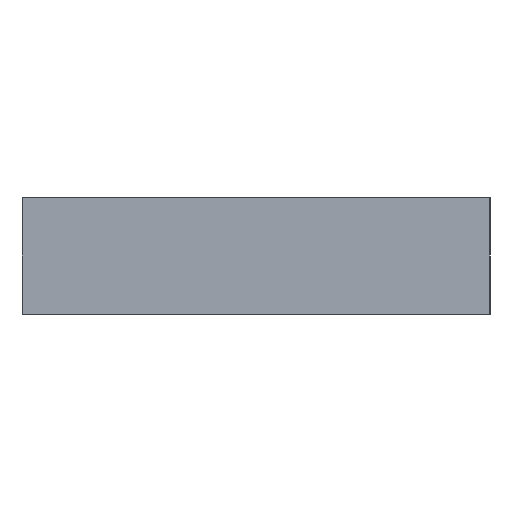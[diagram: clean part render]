
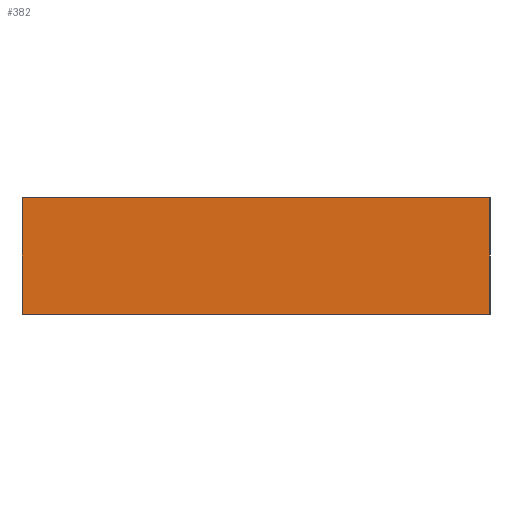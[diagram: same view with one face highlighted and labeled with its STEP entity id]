
A CAD part, left-side view. The second image highlights one B-rep face of the part: STEP entity #382.
In plain terms, the highlighted planar face has unit normal (-1, 0, 0).
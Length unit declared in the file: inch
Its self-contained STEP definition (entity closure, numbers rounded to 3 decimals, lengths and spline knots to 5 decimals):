
#3 = DIRECTION ( 'NONE',  ( 0., 0., -1. ) ) ;
#8 = DIRECTION ( 'NONE',  ( 1., 0., 0. ) ) ;
#12 = ORIENTED_EDGE ( 'NONE', *, *, #429, .T. ) ;
#30 = EDGE_CURVE ( 'NONE', #131, #383, #278, .T. ) ;
#32 = CARTESIAN_POINT ( 'NONE',  ( -6., 0.5, 0.25 ) ) ;
#34 = AXIS2_PLACEMENT_3D ( 'NONE', #297, #8, #118 ) ;
#43 = ORIENTED_EDGE ( 'NONE', *, *, #101, .F. ) ;
#61 = LINE ( 'NONE', #329, #276 ) ;
#67 = DIRECTION ( 'NONE',  ( 0., -1., 0. ) ) ;
#83 = VECTOR ( 'NONE', #125, 39.37008 ) ;
#93 = ORIENTED_EDGE ( 'NONE', *, *, #326, .T. ) ;
#101 = EDGE_CURVE ( 'NONE', #385, #131, #107, .T. ) ;
#107 = LINE ( 'NONE', #229, #403 ) ;
#118 = DIRECTION ( 'NONE',  ( 0., 0., -1. ) ) ;
#125 = DIRECTION ( 'NONE',  ( 0., -1., 0. ) ) ;
#131 = VERTEX_POINT ( 'NONE', #508 ) ;
#229 = CARTESIAN_POINT ( 'NONE',  ( -6., 0.5, 0.25 ) ) ;
#241 = VERTEX_POINT ( 'NONE', #301 ) ;
#252 = CARTESIAN_POINT ( 'NONE',  ( -6., 0.5, 0. ) ) ;
#276 = VECTOR ( 'NONE', #3, 39.37008 ) ;
#278 = LINE ( 'NONE', #465, #493 ) ;
#295 = LINE ( 'NONE', #252, #83 ) ;
#297 = CARTESIAN_POINT ( 'NONE',  ( -6., 0.5, 0.25 ) ) ;
#301 = CARTESIAN_POINT ( 'NONE',  ( -6., 0.5, 0. ) ) ;
#325 = CARTESIAN_POINT ( 'NONE',  ( -6., -0.5, 0. ) ) ;
#326 = EDGE_CURVE ( 'NONE', #241, #383, #295, .T. ) ;
#329 = CARTESIAN_POINT ( 'NONE',  ( -6., 0.5, 0.25 ) ) ;
#369 = PLANE ( 'NONE',  #34 ) ;
#382 = ADVANCED_FACE ( 'NONE', ( #535 ), #369, .F. ) ;
#383 = VERTEX_POINT ( 'NONE', #325 ) ;
#385 = VERTEX_POINT ( 'NONE', #32 ) ;
#395 = EDGE_LOOP ( 'NONE', ( #93, #461, #43, #12 ) ) ;
#403 = VECTOR ( 'NONE', #67, 39.37008 ) ;
#429 = EDGE_CURVE ( 'NONE', #385, #241, #61, .T. ) ;
#461 = ORIENTED_EDGE ( 'NONE', *, *, #30, .F. ) ;
#465 = CARTESIAN_POINT ( 'NONE',  ( -6., -0.5, 0.25 ) ) ;
#466 = DIRECTION ( 'NONE',  ( 0., 0., -1. ) ) ;
#493 = VECTOR ( 'NONE', #466, 39.37008 ) ;
#508 = CARTESIAN_POINT ( 'NONE',  ( -6., -0.5, 0.25 ) ) ;
#535 = FACE_OUTER_BOUND ( 'NONE', #395, .T. ) ;
